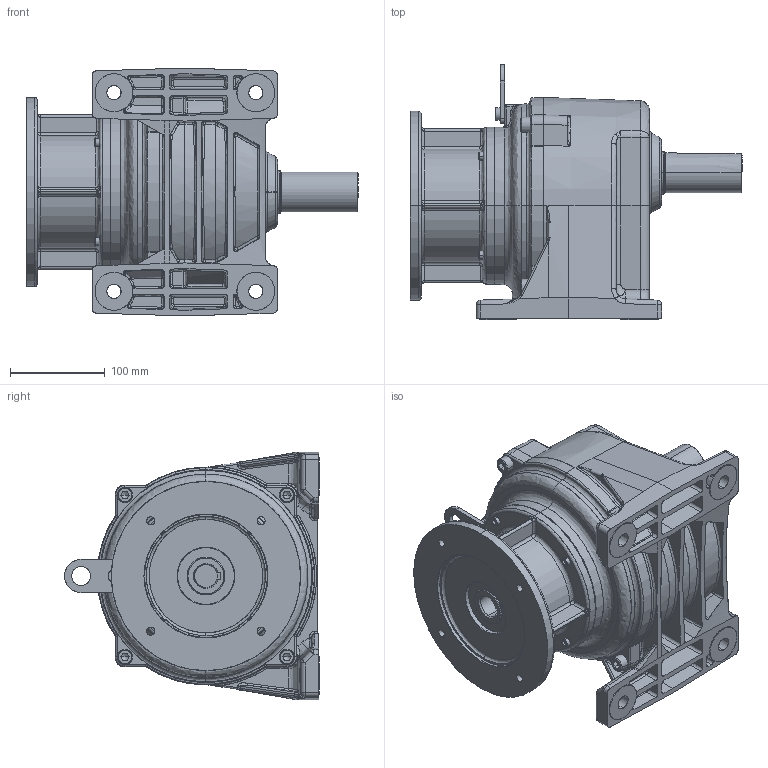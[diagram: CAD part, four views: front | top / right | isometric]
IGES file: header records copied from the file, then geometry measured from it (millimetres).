
Start section: SolidWorks IGES file using analytic representation for surfaces
Bounding box: 351 x 269.5 x 262 mm (x, y, z)
Surface area: 553357.8 mm2 (no closed solid volume)
Topology: 0 solids, 0 shells, 1143 faces, 14264 edges, 14212 vertices
Faces by surface type: bspline 706, revolution 437
